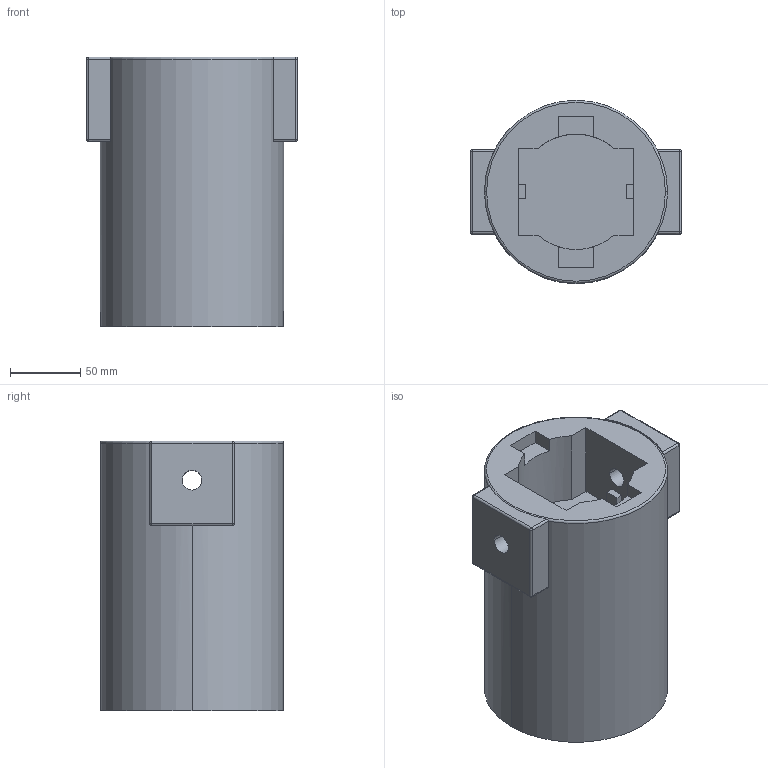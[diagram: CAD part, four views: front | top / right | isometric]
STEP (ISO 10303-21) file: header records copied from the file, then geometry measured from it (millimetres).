
FILE_DESCRIPTION (( 'STEP AP203' ), '1' );
FILE_NAME ('Base_23092024_Predeterminado_sldprt.STEP', '2024-09-30T13:48:24', ( '' ), ( '' ), 'SwSTEP 2.0', 'SolidWorks 2022', '' );
FILE_SCHEMA (( 'CONFIG_CONTROL_DESIGN' ));
Length unit declared in the file: millimetre
Products named in the file (1): Base_23092024_Predeterminado_sldprt
Bounding box: 150 x 130 x 191.6 mm (x, y, z)
Volume: 2292773.8 mm3; surface area: 145124.4 mm2
Topology: 3 solids, 3 shells, 76 faces, 198 edges, 118 vertices
Faces by surface type: plane 35, cylinder 31, sphere 8, torus 2
Entity records: 2727 total; most frequent: CARTESIAN_POINT 827, ORIENTED_EDGE 380, DIRECTION 376, EDGE_CURVE 190, AXIS2_PLACEMENT_3D 131, VERTEX_POINT 118, VECTOR 114, LINE 114
